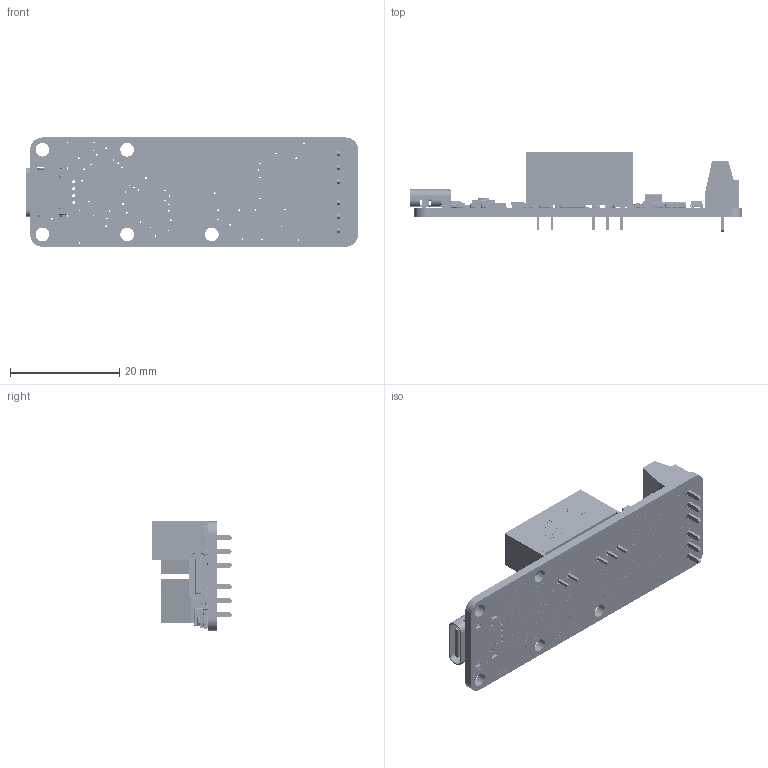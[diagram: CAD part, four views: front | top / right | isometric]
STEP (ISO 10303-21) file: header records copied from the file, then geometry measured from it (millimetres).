
FILE_DESCRIPTION (( 'STEP AP214' ), '1' );
FILE_NAME ('RX010V1C.STEP', '2025-03-03T08:39:23', ( '' ), ( '' ), 'SwSTEP 2.0', 'SolidWorks 2008', '' );
FILE_SCHEMA (( 'AUTOMOTIVE_DESIGN' ));
Length unit declared in the file: millimetre
Products named in the file (46): Alim1; C11; C14; C16; FLASH1; D2; D4; L1; R1; R2; C48; R4; AD1; C2; C18; C21; IC1; PVSS; P3; C26; PCB; C19; R23; USB1; SW1; RX010V1C; reg3; c15; U1; sens1; R16; R12; R29; R26; R13; R19; R27; T3; REG2; T4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
Assembly tree (76 placements, depth 2):
  PVSS
  RX010V1C
    SW1
    Alim1
    C11  x9
    reg3
    R17
    C16
    R15  x2
    D2  x2
    C18  x3
    T4  x2
    R22  x6
    REG2  x2
    R2
    R27  x2
    C2
    R23  x2
    IC1
    c15  x2
    FLASH1
    D4  x2
    R16
    C19
    U1
    P3  x2
    R29  x4
    C26  x2
    AD1
    C48
    R1
    R19
    R13  x2
    R4
    R26  x2
    USB1
    C14
    PCB
    C21  x2
    c23
    R12
    T3  x2
    R5
    YLED
    L1
    sens1
Bounding box: 60.75 x 14.61 x 20.04 mm (x, y, z)
Volume: 4257.6 mm3; surface area: 6106.7 mm2
Topology: 89 solids, 89 shells, 9854 faces, 25750 edges, 16665 vertices
Faces by surface type: plane 6324, cylinder 2205, bspline 1098, sphere 208, cone 12, torus 7
Entity records: 358541 total; most frequent: CARTESIAN_POINT 92614, ORIENTED_EDGE 40754, DIRECTION 36171, EDGE_CURVE 20377, VECTOR 15029, LINE 15029, VERTEX_POINT 13402, AXIS2_PLACEMENT_3D 10571
